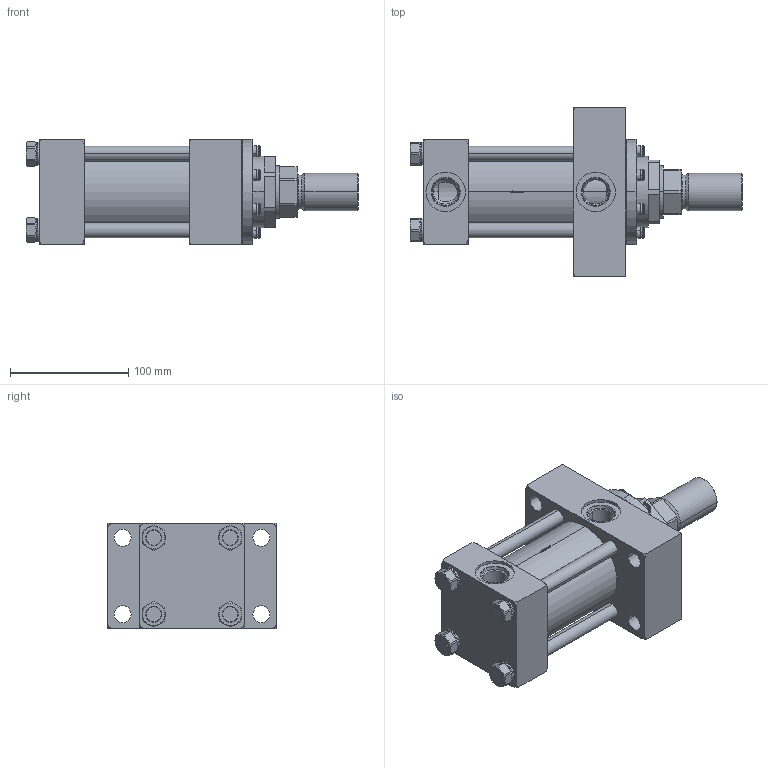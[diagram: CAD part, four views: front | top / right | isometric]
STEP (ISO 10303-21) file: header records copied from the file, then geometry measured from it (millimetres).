
FILE_DESCRIPTION (( 'STEP AP214' ), '1' );
FILE_NAME ('2.50JJ2HHNAT124A2.000.step', '2026-03-26T21:19:38', ( '' ), ( '' ), 'SwSTEP 2.0', 'SolidWorks 2023', '' );
FILE_SCHEMA (( 'AUTOMOTIVE_DESIGN' ));
Length unit declared in the file: inch
Products named in the file (1): 2.50JJ2HHNAT124A2.000
Bounding box: 280.99 x 142.88 x 88.9 mm (x, y, z)
Volume: 1308960 mm3; surface area: 268065.3 mm2
Topology: 42 solids, 42 shells, 1853 faces, 4911 edges, 3152 vertices
Faces by surface type: plane 827, cylinder 753, cone 227, bspline 38, torus 8
Entity records: 85285 total; most frequent: CARTESIAN_POINT 15791, ORIENTED_EDGE 9742, DIRECTION 9134, EDGE_CURVE 4871, AXIS2_PLACEMENT_3D 3531, VERTEX_POINT 3152, VECTOR 2072, LINE 2072
